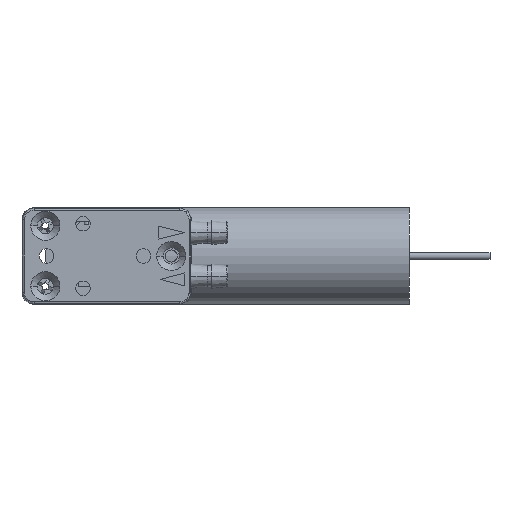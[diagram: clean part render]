
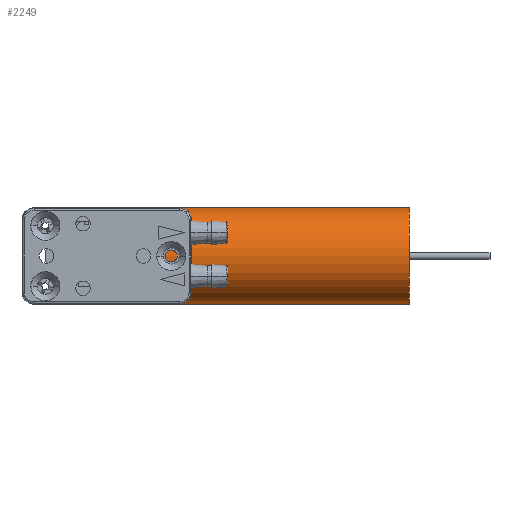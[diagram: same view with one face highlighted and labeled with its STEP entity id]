
A CAD part, front view. The second image highlights one B-rep face of the part: STEP entity #2249.
In plain terms, the highlighted cylindrical face has radius 6 mm (diameter 12 mm), a partial arc.
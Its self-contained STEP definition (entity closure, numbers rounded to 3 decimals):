
#1390 = CARTESIAN_POINT ( 'NONE',  ( 31., 0., 0. ) ) ;
#1651 = CARTESIAN_POINT ( 'NONE',  ( 0., 0., 6. ) ) ;
#2249 = ADVANCED_FACE ( 'NONE', ( #3785 ), #8147, .T. ) ;
#2450 = DIRECTION ( 'NONE',  ( 1., 0., 0. ) ) ;
#2583 = VERTEX_POINT ( 'NONE', #15807 ) ;
#2643 = VECTOR ( 'NONE', #5599, 1000. ) ;
#2872 = ORIENTED_EDGE ( 'NONE', *, *, #3288, .T. ) ;
#2944 = AXIS2_PLACEMENT_3D ( 'NONE', #6695, #13719, #12345 ) ;
#3143 = VERTEX_POINT ( 'NONE', #17123 ) ;
#3180 = CARTESIAN_POINT ( 'NONE',  ( 31., 0., -6. ) ) ;
#3288 = EDGE_CURVE ( 'NONE', #8976, #3143, #3558, .T. ) ;
#3386 = ORIENTED_EDGE ( 'NONE', *, *, #6988, .T. ) ;
#3558 = CIRCLE ( 'NONE', #8789, 6. ) ;
#3636 = CARTESIAN_POINT ( 'NONE',  ( 0., 0., 0. ) ) ;
#3785 = FACE_OUTER_BOUND ( 'NONE', #6922, .T. ) ;
#4852 = VERTEX_POINT ( 'NONE', #3180 ) ;
#5599 = DIRECTION ( 'NONE',  ( -1., 0., 0. ) ) ;
#6030 = LINE ( 'NONE', #12790, #12389 ) ;
#6695 = CARTESIAN_POINT ( 'NONE',  ( -12.3, 0., 0. ) ) ;
#6922 = EDGE_LOOP ( 'NONE', ( #14875, #13904, #3386, #2872 ) ) ;
#6988 = EDGE_CURVE ( 'NONE', #2583, #8976, #6030, .T. ) ;
#8147 = CYLINDRICAL_SURFACE ( 'NONE', #2944, 6. ) ;
#8292 = DIRECTION ( 'NONE',  ( -1., 0., 0. ) ) ;
#8513 = LINE ( 'NONE', #9792, #2643 ) ;
#8789 = AXIS2_PLACEMENT_3D ( 'NONE', #3636, #2450, #10737 ) ;
#8976 = VERTEX_POINT ( 'NONE', #1651 ) ;
#9792 = CARTESIAN_POINT ( 'NONE',  ( -12.3, 0., -6. ) ) ;
#10225 = DIRECTION ( 'NONE',  ( -1., 0., 0. ) ) ;
#10737 = DIRECTION ( 'NONE',  ( 0., 0., 1. ) ) ;
#10955 = AXIS2_PLACEMENT_3D ( 'NONE', #1390, #8292, #12488 ) ;
#11003 = EDGE_CURVE ( 'NONE', #4852, #2583, #15926, .T. ) ;
#12345 = DIRECTION ( 'NONE',  ( 0., 0., 1. ) ) ;
#12389 = VECTOR ( 'NONE', #10225, 1000. ) ;
#12488 = DIRECTION ( 'NONE',  ( 0., 0., 1. ) ) ;
#12790 = CARTESIAN_POINT ( 'NONE',  ( -12.3, 0., 6. ) ) ;
#13719 = DIRECTION ( 'NONE',  ( -1., 0., 0. ) ) ;
#13904 = ORIENTED_EDGE ( 'NONE', *, *, #11003, .T. ) ;
#14875 = ORIENTED_EDGE ( 'NONE', *, *, #17119, .F. ) ;
#15807 = CARTESIAN_POINT ( 'NONE',  ( 31., 0., 6. ) ) ;
#15926 = CIRCLE ( 'NONE', #10955, 6. ) ;
#17119 = EDGE_CURVE ( 'NONE', #4852, #3143, #8513, .T. ) ;
#17123 = CARTESIAN_POINT ( 'NONE',  ( 0., 0., -6. ) ) ;
